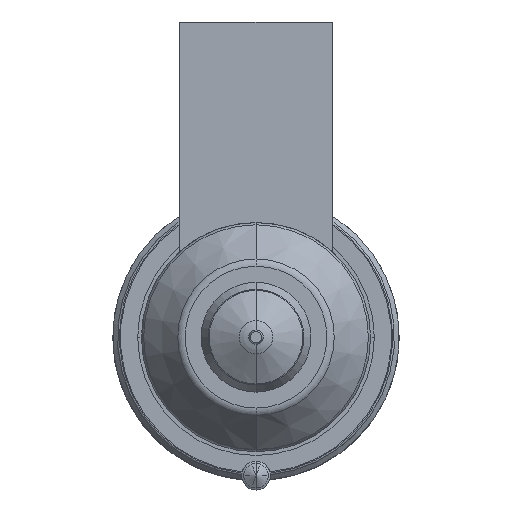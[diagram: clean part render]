
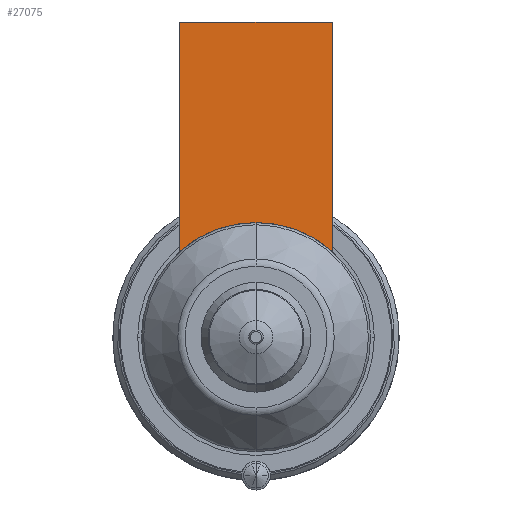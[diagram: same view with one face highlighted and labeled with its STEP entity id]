
A CAD part, front view. The second image highlights one B-rep face of the part: STEP entity #27075.
In plain terms, the highlighted planar face has unit normal (0, -1, 0).
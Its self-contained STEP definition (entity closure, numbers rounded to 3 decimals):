
#26153=DIRECTION('',(0.,0.,-1.));
#26154=VECTOR('',#26153,24.056);
#26155=CARTESIAN_POINT('',(-8.,-56.,33.));
#26156=LINE('',#26155,#26154);
#26193=DIRECTION('',(1.,0.,0.));
#26194=VECTOR('',#26193,16.);
#26195=CARTESIAN_POINT('',(-8.,-56.,33.));
#26196=LINE('',#26195,#26194);
#26200=CARTESIAN_POINT('',(0.,-56.,0.));
#26201=DIRECTION('',(0.,-1.,0.));
#26202=DIRECTION('',(0.667,0.,0.745));
#26203=AXIS2_PLACEMENT_3D('',#26200,#26201,#26202);
#26208=CARTESIAN_POINT('',(0.,-56.,0.));
#26209=DIRECTION('',(0.,-1.,0.));
#26210=DIRECTION('',(0.,0.,1.));
#26211=AXIS2_PLACEMENT_3D('',#26208,#26209,#26210);
#26244=DIRECTION('',(0.,0.,-1.));
#26245=VECTOR('',#26244,24.056);
#26246=CARTESIAN_POINT('',(8.,-56.,33.));
#26247=LINE('',#26246,#26245);
#26911=CARTESIAN_POINT('',(-8.,-56.,33.));
#26912=VERTEX_POINT('',#26911);
#26917=CARTESIAN_POINT('',(8.,-56.,33.));
#26918=VERTEX_POINT('',#26917);
#26921=CARTESIAN_POINT('',(-8.,-56.,8.944));
#26922=VERTEX_POINT('',#26921);
#26925=CARTESIAN_POINT('',(8.,-56.,8.944));
#26926=VERTEX_POINT('',#26925);
#26994=CARTESIAN_POINT('',(0.,-56.,12.));
#26995=VERTEX_POINT('',#26994);
#27060=CARTESIAN_POINT('',(-8.,-56.,33.));
#27061=DIRECTION('',(0.,-1.,0.));
#27062=DIRECTION('',(0.,0.,-1.));
#27063=AXIS2_PLACEMENT_3D('',#27060,#27061,#27062);
#27064=PLANE('',#27063);
#27065=ORIENTED_EDGE('',*,*,#27008,.F.);
#27067=ORIENTED_EDGE('',*,*,#27066,.T.);
#27069=ORIENTED_EDGE('',*,*,#27068,.T.);
#27071=ORIENTED_EDGE('',*,*,#27070,.T.);
#27072=ORIENTED_EDGE('',*,*,#27040,.T.);
#27073=EDGE_LOOP('',(#27065,#27067,#27069,#27071,#27072));
#27074=FACE_OUTER_BOUND('',#27073,.F.);
#27075=ADVANCED_FACE('',(#27074),#27064,.T.);
#26204=CIRCLE('',#26203,12.);
#26212=CIRCLE('',#26211,12.);
#27008=EDGE_CURVE('',#26912,#26922,#26156,.T.);
#27040=EDGE_CURVE('',#26995,#26922,#26212,.T.);
#27066=EDGE_CURVE('',#26912,#26918,#26196,.T.);
#27068=EDGE_CURVE('',#26918,#26926,#26247,.T.);
#27070=EDGE_CURVE('',#26926,#26995,#26204,.T.);
